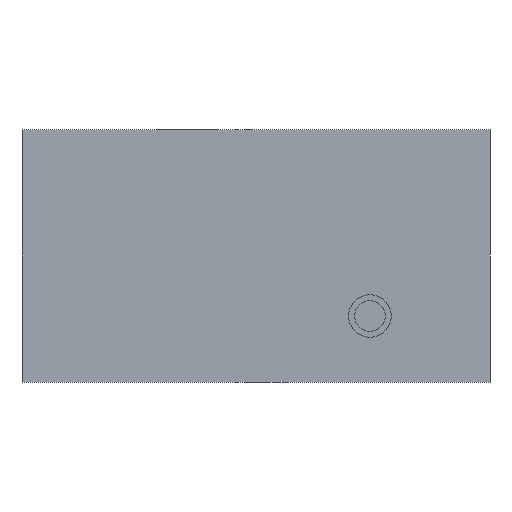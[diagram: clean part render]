
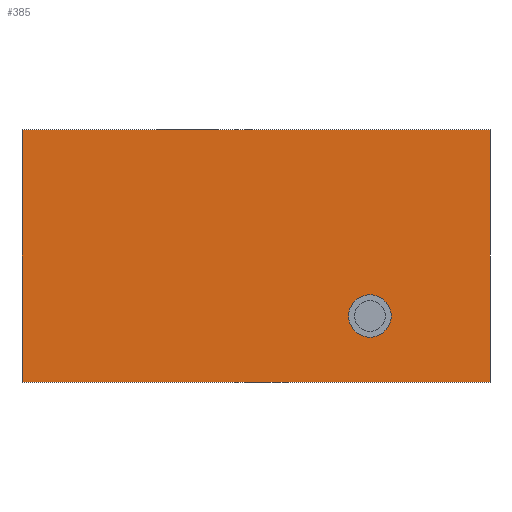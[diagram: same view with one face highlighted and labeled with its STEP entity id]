
A CAD part, front view. The second image highlights one B-rep face of the part: STEP entity #385.
In plain terms, the highlighted planar face has unit normal (0, -1, 0).
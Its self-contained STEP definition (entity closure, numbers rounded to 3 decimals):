
#21 = EDGE_CURVE('',#22,#24,#26,.T.);
#22 = VERTEX_POINT('',#23);
#23 = CARTESIAN_POINT('',(0.,0.,0.));
#24 = VERTEX_POINT('',#25);
#25 = CARTESIAN_POINT('',(0.,0.,20.569));
#26 = SURFACE_CURVE('',#27,(#31,#43),.PCURVE_S1.);
#27 = LINE('',#28,#29);
#28 = CARTESIAN_POINT('',(0.,0.,0.));
#29 = VECTOR('',#30,1.);
#30 = DIRECTION('',(0.,0.,1.));
#31 = PCURVE('',#32,#37);
#32 = PLANE('',#33);
#33 = AXIS2_PLACEMENT_3D('',#34,#35,#36);
#34 = CARTESIAN_POINT('',(0.,0.,0.));
#35 = DIRECTION('',(1.,0.,-0.));
#36 = DIRECTION('',(0.,0.,1.));
#37 = DEFINITIONAL_REPRESENTATION('',(#38),#42);
#38 = LINE('',#39,#40);
#39 = CARTESIAN_POINT('',(0.,0.));
#40 = VECTOR('',#41,1.);
#41 = DIRECTION('',(1.,0.));
#42 = ( GEOMETRIC_REPRESENTATION_CONTEXT(2) 
PARAMETRIC_REPRESENTATION_CONTEXT() REPRESENTATION_CONTEXT('2D SPACE',''
  ) );
#43 = PCURVE('',#44,#49);
#44 = PLANE('',#45);
#45 = AXIS2_PLACEMENT_3D('',#46,#47,#48);
#46 = CARTESIAN_POINT('',(0.,0.,0.));
#47 = DIRECTION('',(-0.,1.,0.));
#48 = DIRECTION('',(0.,0.,1.));
#49 = DEFINITIONAL_REPRESENTATION('',(#50),#54);
#50 = LINE('',#51,#52);
#51 = CARTESIAN_POINT('',(0.,0.));
#52 = VECTOR('',#53,1.);
#53 = DIRECTION('',(1.,0.));
#54 = ( GEOMETRIC_REPRESENTATION_CONTEXT(2) 
PARAMETRIC_REPRESENTATION_CONTEXT() REPRESENTATION_CONTEXT('2D SPACE',''
  ) );
#72 = PLANE('',#73);
#73 = AXIS2_PLACEMENT_3D('',#74,#75,#76);
#74 = CARTESIAN_POINT('',(0.,0.,0.));
#75 = DIRECTION('',(0.,0.,1.));
#76 = DIRECTION('',(1.,0.,-0.));
#126 = PLANE('',#127);
#127 = AXIS2_PLACEMENT_3D('',#128,#129,#130);
#128 = CARTESIAN_POINT('',(0.,0.,20.569));
#129 = DIRECTION('',(0.,0.,1.));
#130 = DIRECTION('',(1.,0.,-0.));
#385 = ADVANCED_FACE('f001',(#386,#461),#44,.F.);
#386 = FACE_BOUND('',#387,.F.);
#387 = EDGE_LOOP('',(#388,#411,#412,#435));
#388 = ORIENTED_EDGE('',*,*,#389,.F.);
#389 = EDGE_CURVE('',#22,#390,#392,.T.);
#390 = VERTEX_POINT('',#391);
#391 = CARTESIAN_POINT('',(38.159,0.,0.));
#392 = SURFACE_CURVE('',#393,(#397,#404),.PCURVE_S1.);
#393 = LINE('',#394,#395);
#394 = CARTESIAN_POINT('',(0.,0.,0.));
#395 = VECTOR('',#396,1.);
#396 = DIRECTION('',(1.,0.,-0.));
#397 = PCURVE('',#44,#398);
#398 = DEFINITIONAL_REPRESENTATION('',(#399),#403);
#399 = LINE('',#400,#401);
#400 = CARTESIAN_POINT('',(0.,0.));
#401 = VECTOR('',#402,1.);
#402 = DIRECTION('',(0.,1.));
#403 = ( GEOMETRIC_REPRESENTATION_CONTEXT(2) 
PARAMETRIC_REPRESENTATION_CONTEXT() REPRESENTATION_CONTEXT('2D SPACE',''
  ) );
#404 = PCURVE('',#72,#405);
#405 = DEFINITIONAL_REPRESENTATION('',(#406),#410);
#406 = LINE('',#407,#408);
#407 = CARTESIAN_POINT('',(0.,0.));
#408 = VECTOR('',#409,1.);
#409 = DIRECTION('',(1.,0.));
#410 = ( GEOMETRIC_REPRESENTATION_CONTEXT(2) 
PARAMETRIC_REPRESENTATION_CONTEXT() REPRESENTATION_CONTEXT('2D SPACE',''
  ) );
#411 = ORIENTED_EDGE('',*,*,#21,.T.);
#412 = ORIENTED_EDGE('',*,*,#413,.T.);
#413 = EDGE_CURVE('',#24,#414,#416,.T.);
#414 = VERTEX_POINT('',#415);
#415 = CARTESIAN_POINT('',(38.159,0.,20.569));
#416 = SURFACE_CURVE('',#417,(#421,#428),.PCURVE_S1.);
#417 = LINE('',#418,#419);
#418 = CARTESIAN_POINT('',(0.,0.,20.569));
#419 = VECTOR('',#420,1.);
#420 = DIRECTION('',(1.,0.,-0.));
#421 = PCURVE('',#44,#422);
#422 = DEFINITIONAL_REPRESENTATION('',(#423),#427);
#423 = LINE('',#424,#425);
#424 = CARTESIAN_POINT('',(20.569,0.));
#425 = VECTOR('',#426,1.);
#426 = DIRECTION('',(0.,1.));
#427 = ( GEOMETRIC_REPRESENTATION_CONTEXT(2) 
PARAMETRIC_REPRESENTATION_CONTEXT() REPRESENTATION_CONTEXT('2D SPACE',''
  ) );
#428 = PCURVE('',#126,#429);
#429 = DEFINITIONAL_REPRESENTATION('',(#430),#434);
#430 = LINE('',#431,#432);
#431 = CARTESIAN_POINT('',(0.,0.));
#432 = VECTOR('',#433,1.);
#433 = DIRECTION('',(1.,0.));
#434 = ( GEOMETRIC_REPRESENTATION_CONTEXT(2) 
PARAMETRIC_REPRESENTATION_CONTEXT() REPRESENTATION_CONTEXT('2D SPACE',''
  ) );
#435 = ORIENTED_EDGE('',*,*,#436,.F.);
#436 = EDGE_CURVE('',#390,#414,#437,.T.);
#437 = SURFACE_CURVE('',#438,(#442,#449),.PCURVE_S1.);
#438 = LINE('',#439,#440);
#439 = CARTESIAN_POINT('',(38.159,0.,0.));
#440 = VECTOR('',#441,1.);
#441 = DIRECTION('',(0.,0.,1.));
#442 = PCURVE('',#44,#443);
#443 = DEFINITIONAL_REPRESENTATION('',(#444),#448);
#444 = LINE('',#445,#446);
#445 = CARTESIAN_POINT('',(0.,38.159));
#446 = VECTOR('',#447,1.);
#447 = DIRECTION('',(1.,0.));
#448 = ( GEOMETRIC_REPRESENTATION_CONTEXT(2) 
PARAMETRIC_REPRESENTATION_CONTEXT() REPRESENTATION_CONTEXT('2D SPACE',''
  ) );
#449 = PCURVE('',#450,#455);
#450 = PLANE('',#451);
#451 = AXIS2_PLACEMENT_3D('',#452,#453,#454);
#452 = CARTESIAN_POINT('',(38.159,0.,0.));
#453 = DIRECTION('',(1.,0.,-0.));
#454 = DIRECTION('',(0.,0.,1.));
#455 = DEFINITIONAL_REPRESENTATION('',(#456),#460);
#456 = LINE('',#457,#458);
#457 = CARTESIAN_POINT('',(0.,0.));
#458 = VECTOR('',#459,1.);
#459 = DIRECTION('',(1.,0.));
#460 = ( GEOMETRIC_REPRESENTATION_CONTEXT(2) 
PARAMETRIC_REPRESENTATION_CONTEXT() REPRESENTATION_CONTEXT('2D SPACE',''
  ) );
#461 = FACE_BOUND('',#462,.F.);
#462 = EDGE_LOOP('',(#463));
#463 = ORIENTED_EDGE('',*,*,#464,.T.);
#464 = EDGE_CURVE('',#465,#465,#467,.T.);
#465 = VERTEX_POINT('',#466);
#466 = CARTESIAN_POINT('',(28.371,0.,3.657));
#467 = SURFACE_CURVE('',#468,(#473,#484),.PCURVE_S1.);
#468 = CIRCLE('',#469,1.735);
#469 = AXIS2_PLACEMENT_3D('',#470,#471,#472);
#470 = CARTESIAN_POINT('',(28.371,0.,5.393));
#471 = DIRECTION('',(0.,-1.,-0.));
#472 = DIRECTION('',(0.,0.,-1.));
#473 = PCURVE('',#44,#474);
#474 = DEFINITIONAL_REPRESENTATION('',(#475),#483);
#475 = ( BOUNDED_CURVE() B_SPLINE_CURVE(2,(#476,#477,#478,#479,#480,#481
,#482),.UNSPECIFIED.,.T.,.F.) B_SPLINE_CURVE_WITH_KNOTS((1,2,2,2,2,1),(
    -2.094,0.,2.094,4.189,6.283,
8.378),.UNSPECIFIED.) CURVE() GEOMETRIC_REPRESENTATION_ITEM() 
RATIONAL_B_SPLINE_CURVE((1.,0.5,1.,0.5,1.,0.5,1.)) REPRESENTATION_ITEM(
  '') );
#476 = CARTESIAN_POINT('',(3.657,28.371));
#477 = CARTESIAN_POINT('',(3.657,31.377));
#478 = CARTESIAN_POINT('',(6.26,29.874));
#479 = CARTESIAN_POINT('',(8.863,28.371));
#480 = CARTESIAN_POINT('',(6.26,26.868));
#481 = CARTESIAN_POINT('',(3.657,25.366));
#482 = CARTESIAN_POINT('',(3.657,28.371));
#483 = ( GEOMETRIC_REPRESENTATION_CONTEXT(2) 
PARAMETRIC_REPRESENTATION_CONTEXT() REPRESENTATION_CONTEXT('2D SPACE',''
  ) );
#484 = PCURVE('',#485,#490);
#485 = CYLINDRICAL_SURFACE('',#486,1.735);
#486 = AXIS2_PLACEMENT_3D('',#487,#488,#489);
#487 = CARTESIAN_POINT('',(28.371,0.,5.393));
#488 = DIRECTION('',(0.,-1.,-0.));
#489 = DIRECTION('',(0.,0.,-1.));
#490 = DEFINITIONAL_REPRESENTATION('',(#491),#495);
#491 = LINE('',#492,#493);
#492 = CARTESIAN_POINT('',(0.,0.));
#493 = VECTOR('',#494,1.);
#494 = DIRECTION('',(1.,0.));
#495 = ( GEOMETRIC_REPRESENTATION_CONTEXT(2) 
PARAMETRIC_REPRESENTATION_CONTEXT() REPRESENTATION_CONTEXT('2D SPACE',''
  ) );
